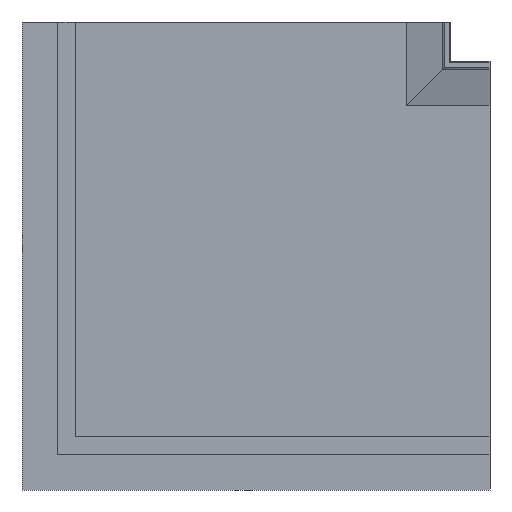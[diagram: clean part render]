
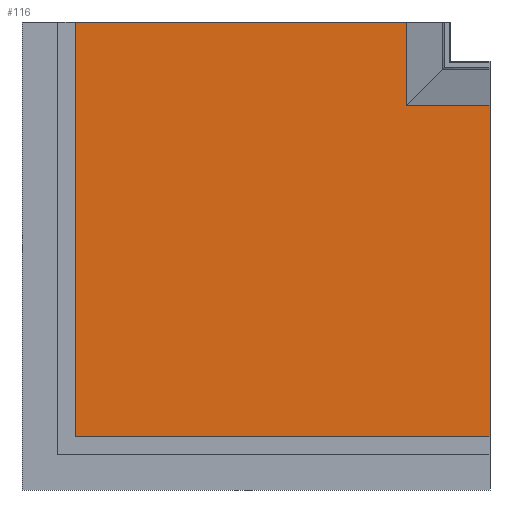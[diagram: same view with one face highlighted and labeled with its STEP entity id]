
A CAD part, left-side view. The second image highlights one B-rep face of the part: STEP entity #116.
In plain terms, the highlighted planar face has unit normal (-1, 0, 0).
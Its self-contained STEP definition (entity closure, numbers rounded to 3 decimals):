
#116=ADVANCED_FACE('',(#296),#217,.F.);
#217=PLANE('',#1958);
#296=FACE_OUTER_BOUND('',#398,.T.);
#398=EDGE_LOOP('',(#1016,#1017,#1018,#1019,#1020,#1021));
#496=LINE('',#2497,#726);
#535=LINE('',#2598,#765);
#537=LINE('',#2602,#767);
#539=LINE('',#2606,#769);
#540=LINE('',#2609,#770);
#541=LINE('',#2610,#771);
#726=VECTOR('',#2055,1.);
#765=VECTOR('',#2114,1.);
#767=VECTOR('',#2118,1.);
#769=VECTOR('',#2122,1.);
#770=VECTOR('',#2123,1.);
#771=VECTOR('',#2124,1.);
#1016=ORIENTED_EDGE('',*,*,#1708,.T.);
#1017=ORIENTED_EDGE('',*,*,#1709,.T.);
#1018=ORIENTED_EDGE('',*,*,#1657,.T.);
#1019=ORIENTED_EDGE('',*,*,#1704,.F.);
#1020=ORIENTED_EDGE('',*,*,#1706,.F.);
#1021=ORIENTED_EDGE('',*,*,#1710,.F.);
#1489=VERTEX_POINT('',#2496);
#1490=VERTEX_POINT('',#2498);
#1533=VERTEX_POINT('',#2599);
#1534=VERTEX_POINT('',#2603);
#1535=VERTEX_POINT('',#2607);
#1536=VERTEX_POINT('',#2608);
#1657=EDGE_CURVE('',#1490,#1489,#496,.T.);
#1704=EDGE_CURVE('',#1533,#1489,#535,.T.);
#1706=EDGE_CURVE('',#1534,#1533,#537,.T.);
#1708=EDGE_CURVE('',#1535,#1536,#539,.T.);
#1709=EDGE_CURVE('',#1536,#1490,#540,.T.);
#1710=EDGE_CURVE('',#1535,#1534,#541,.T.);
#1958=AXIS2_PLACEMENT_3D('',#2611,#2125,#2126);
#2055=DIRECTION('',(0.,0.,1.));
#2114=DIRECTION('',(0.,-1.,0.));
#2118=DIRECTION('',(0.,0.,-1.));
#2122=DIRECTION('',(0.,0.,-1.));
#2123=DIRECTION('',(0.,-1.,0.));
#2124=DIRECTION('',(0.,-1.,0.));
#2125=DIRECTION('',(1.,0.,0.));
#2126=DIRECTION('',(0.,-0.707,0.707));
#2496=CARTESIAN_POINT('',(-21.3,-10.,-19.081));
#2497=CARTESIAN_POINT('',(-21.3,-10.,-57.041));
#2498=CARTESIAN_POINT('',(-21.3,-10.,-95.));
#2598=CARTESIAN_POINT('',(-21.3,-0.459,-19.081));
#2599=CARTESIAN_POINT('',(-21.3,9.081,-19.081));
#2602=CARTESIAN_POINT('',(-21.3,9.081,-9.541));
#2603=CARTESIAN_POINT('',(-21.3,9.081,0.));
#2606=CARTESIAN_POINT('',(-21.3,85.,-47.5));
#2607=CARTESIAN_POINT('',(-21.3,85.,0.));
#2608=CARTESIAN_POINT('',(-21.3,85.,-95.));
#2609=CARTESIAN_POINT('',(-21.3,37.5,-95.));
#2610=CARTESIAN_POINT('',(-21.3,47.041,0.));
#2611=CARTESIAN_POINT('',(-21.3,47.041,-57.041));
